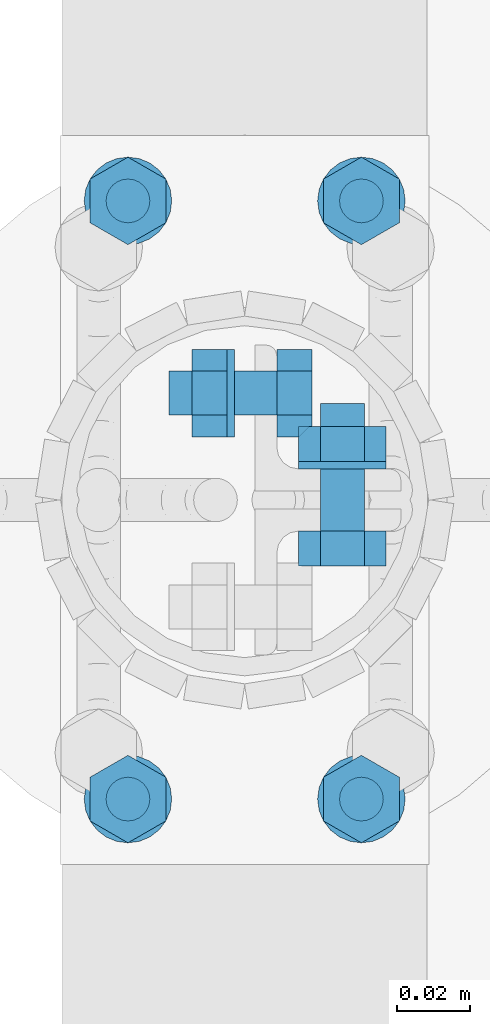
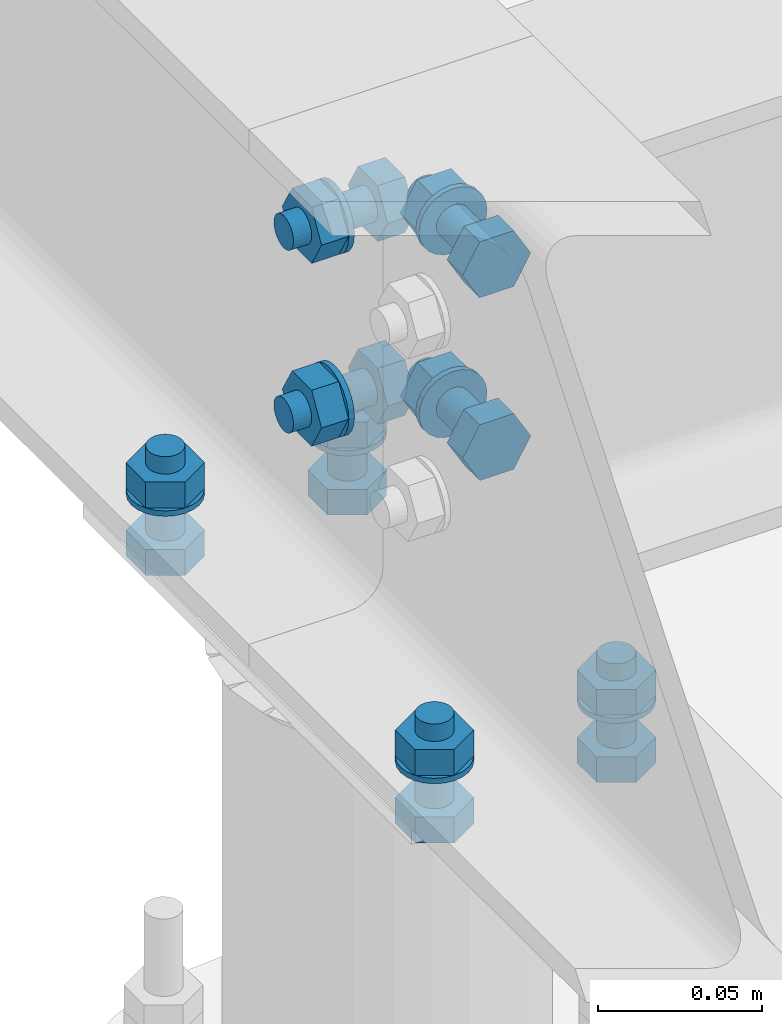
# One storey, part 76 of 84: 40 mechanical fasteners.
"""IFC4 building model written with IfcOpenShell, lengths in metres."""

from ifc_helpers import new_model, si_unit, frame, origin_with_axes, place, context, project, spatial, polyline, outline, extrude, type_object, element, save


model = new_model("IFC4")

# Units and contexts
model_context = context("Model", 3, precision=1e-05, world=origin_with_axes())
ifc_project = project(units=[si_unit("LENGTHUNIT", "METRE"), si_unit("AREAUNIT", "SQUARE_METRE"), si_unit("VOLUMEUNIT", "CUBIC_METRE"), si_unit("MASSUNIT", "GRAM", prefix="KILO"), si_unit("TIMEUNIT", "SECOND"), si_unit("PLANEANGLEUNIT", "RADIAN"), si_unit("SOLIDANGLEUNIT", "STERADIAN"), si_unit("THERMODYNAMICTEMPERATUREUNIT", "DEGREE_CELSIUS")], contexts=[model_context])

# Site, building, storey
placement_1 = place(None, origin_with_axes())
site = spatial("IfcSite", under=ifc_project, at=placement_1, Name="Italia", CompositionType="ELEMENT")
building = spatial("IfcBuilding", under=site, at=placement_1, Name="Tettoia", CompositionType="ELEMENT")
storey_placement = place(None, frame((0.0, 0.0, 4.199999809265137), z_axis=(0.0, 0.0, 1.0), x_axis=(1.0, 0.0, 0.0)))
storey = spatial("IfcBuildingStorey", under=building, at=storey_placement, Name="Storey 1", CompositionType="ELEMENT", Elevation=4.199999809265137)

# Mechanical fasteners
mechanical_fastener_type_1 = type_object("IfcMechanicalFastenerType", Name="Collegamento 0114_-014", PredefinedType="BOLT")
placement_2 = place(placement_1, origin_with_axes())
mechanical_fastener_1_placement = place(placement_2, origin_with_axes())
element("IfcMechanicalFastener", 1, at=mechanical_fastener_1_placement, inside=storey, type_object=mechanical_fastener_type_1, Name="Collegamento 0114_-014", NominalDiameter=0.0119991, context=model_context, shape_type="SweptSolid", body=[
    extrude(outline(polyline([(0.0, 0.0), (0.0119991, 0.0), (0.0179996, -0.0103923), (0.0119991, -0.0207846), (0.0, -0.0207846), (-0.00600052, -0.0103923), (0.0, 0.0)])), frame((0.142392, 19.896, 4.195), z_axis=(0.0, 0.0, -1.0), x_axis=(0.0, 1.0, 0.0)), (0.0, 0.0, 1.0), 0.00959969),
])
mechanical_fastener_type_2 = type_object("IfcMechanicalFastenerType", Name="Collegamento 0114_-014", PredefinedType="BOLT")
mechanical_fastener_2_placement = place(placement_2, origin_with_axes())
element("IfcMechanicalFastener", 2, at=mechanical_fastener_2_placement, inside=storey, type_object=mechanical_fastener_type_2, Name="Collegamento 0114_-014", NominalDiameter=0.012, context=model_context, shape_type="SweptSolid", body=[
    extrude(outline(polyline([(0.0, 0.0), (-0.000204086, -0.00155291), (-0.000804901, -0.00300001), (-0.00175858, -0.00424264), (-0.00300026, -0.00519615), (-0.00444794, -0.00579555), (-0.00600052, -0.006), (-0.0075531, -0.00579555), (-0.00900078, -0.00519615), (-0.0102425, -0.00424264), (-0.0111961, -0.00300001), (-0.011797, -0.00155291), (-0.012001, 0.0), (-0.011797, 0.00155291), (-0.0111961, 0.00300001), (-0.0102425, 0.00424264), (-0.00900078, 0.00519615), (-0.0075531, 0.00579555), (-0.00600052, 0.006), (-0.00444794, 0.00579555), (-0.00300026, 0.00519615), (-0.00175858, 0.00424264), (-0.000804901, 0.00299999), (-0.000204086, 0.00155291), (0.0, 0.0)])), frame((0.132, 19.908, 4.2265), z_axis=(0.0, 0.0, -1.0), x_axis=(0.0, 1.0, 0.0)), (0.0, 0.0, 1.0), 0.0315003),
])
mechanical_fastener_type_3 = type_object("IfcMechanicalFastenerType", Name="Collegamento 0114_-014", PredefinedType="BOLT")
mechanical_fastener_3_placement = place(placement_2, origin_with_axes())
element("IfcMechanicalFastener", 3, at=mechanical_fastener_3_placement, inside=storey, type_object=mechanical_fastener_type_3, Name="Collegamento 0114_-014", NominalDiameter=0.0119991, context=model_context, shape_type="SweptSolid", body=[
    extrude(outline(polyline([(0.0, 0.0), (0.0119991, 0.0), (0.0179996, -0.0103923), (0.0119991, -0.0207846), (0.0, -0.0207846), (-0.00600052, -0.0103923), (0.0, 0.0)])), frame((0.142392, 19.896, 4.2201), z_axis=(0.0, 0.0, -1.0), x_axis=(0.0, 1.0, 0.0)), (0.0, 0.0, 1.0), 0.00960016),
])
mechanical_fastener_type_4 = type_object("IfcMechanicalFastenerType", Name="Collegamento 0114_-014", PredefinedType="BOLT")
mechanical_fastener_4_placement = place(placement_2, origin_with_axes())
element("IfcMechanicalFastener", 4, at=mechanical_fastener_4_placement, inside=storey, type_object=mechanical_fastener_type_4, Name="Collegamento 0114_-014", NominalDiameter=0.024, context=model_context, shape_type="SweptSolid", body=[
    extrude(outline(polyline([(0.0, 0.0), (-0.000408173, -0.00310583), (-0.00160599, -0.006), (-0.00351334, -0.00848528), (-0.00599861, -0.0103923), (-0.00889397, -0.0115911), (-0.0119991, -0.012), (-0.0151043, -0.0115911), (-0.0179996, -0.0103923), (-0.0204849, -0.00848528), (-0.0223923, -0.006), (-0.0235901, -0.00310583), (-0.0239983, 0.0), (-0.0235901, 0.00310583), (-0.0223923, 0.006), (-0.0204849, 0.00848529), (-0.0179996, 0.0103923), (-0.0151043, 0.0115911), (-0.0119991, 0.012), (-0.00889397, 0.0115911), (-0.00599861, 0.0103923), (-0.00351334, 0.00848527), (-0.00160599, 0.006), (-0.000408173, 0.00310582), (0.0, 0.0)])), frame((0.132, 19.914, 4.2105), z_axis=(0.0, 0.0, -1.0), x_axis=(0.0, 1.0, 0.0)), (0.0, 0.0, 1.0), 0.00199986),
])
mechanical_fastener_type_5 = type_object("IfcMechanicalFastenerType", Name="Collegamento 0114_-014", PredefinedType="BOLT")
mechanical_fastener_5_placement = place(placement_2, origin_with_axes())
element("IfcMechanicalFastener", 5, at=mechanical_fastener_5_placement, inside=storey, type_object=mechanical_fastener_type_5, Name="Collegamento 0114_-014", NominalDiameter=0.0119991, context=model_context, shape_type="SweptSolid", body=[
    extrude(outline(polyline([(0.0, 0.0), (0.0119991, 0.0), (0.0179996, -0.0103923), (0.0119991, -0.0207846), (0.0, -0.0207846), (-0.00600052, -0.0103923), (0.0, 0.0)])), frame((0.142392, 19.732, 4.195), z_axis=(0.0, 0.0, -1.0), x_axis=(0.0, 1.0, 0.0)), (0.0, 0.0, 1.0), 0.00959969),
])
mechanical_fastener_type_6 = type_object("IfcMechanicalFastenerType", Name="Collegamento 0114_-014", PredefinedType="BOLT")
mechanical_fastener_6_placement = place(placement_2, origin_with_axes())
element("IfcMechanicalFastener", 6, at=mechanical_fastener_6_placement, inside=storey, type_object=mechanical_fastener_type_6, Name="Collegamento 0114_-014", NominalDiameter=0.012, context=model_context, shape_type="SweptSolid", body=[
    extrude(outline(polyline([(0.0, 0.0), (-0.000204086, -0.00155291), (-0.000804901, -0.00300001), (-0.00175858, -0.00424264), (-0.00300026, -0.00519615), (-0.00444794, -0.00579555), (-0.00600052, -0.006), (-0.0075531, -0.00579555), (-0.00900078, -0.00519615), (-0.0102425, -0.00424264), (-0.0111961, -0.00300001), (-0.011797, -0.00155291), (-0.012001, 0.0), (-0.011797, 0.00155291), (-0.0111961, 0.00300001), (-0.0102425, 0.00424264), (-0.00900078, 0.00519615), (-0.0075531, 0.00579555), (-0.00600052, 0.006), (-0.00444794, 0.00579555), (-0.00300026, 0.00519615), (-0.00175858, 0.00424264), (-0.000804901, 0.00299999), (-0.000204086, 0.00155291), (0.0, 0.0)])), frame((0.132, 19.744, 4.2265), z_axis=(0.0, 0.0, -1.0), x_axis=(0.0, 1.0, 0.0)), (0.0, 0.0, 1.0), 0.0315003),
])
mechanical_fastener_type_7 = type_object("IfcMechanicalFastenerType", Name="Collegamento 0114_-014", PredefinedType="BOLT")
mechanical_fastener_7_placement = place(placement_2, origin_with_axes())
element("IfcMechanicalFastener", 7, at=mechanical_fastener_7_placement, inside=storey, type_object=mechanical_fastener_type_7, Name="Collegamento 0114_-014", NominalDiameter=0.0119991, context=model_context, shape_type="SweptSolid", body=[
    extrude(outline(polyline([(0.0, 0.0), (0.0119991, 0.0), (0.0179996, -0.0103923), (0.0119991, -0.0207846), (0.0, -0.0207846), (-0.00600052, -0.0103923), (0.0, 0.0)])), frame((0.142392, 19.732, 4.2201), z_axis=(0.0, 0.0, -1.0), x_axis=(0.0, 1.0, 0.0)), (0.0, 0.0, 1.0), 0.00960016),
])
mechanical_fastener_type_8 = type_object("IfcMechanicalFastenerType", Name="Collegamento 0114_-014", PredefinedType="BOLT")
mechanical_fastener_8_placement = place(placement_2, origin_with_axes())
element("IfcMechanicalFastener", 8, at=mechanical_fastener_8_placement, inside=storey, type_object=mechanical_fastener_type_8, Name="Collegamento 0114_-014", NominalDiameter=0.024, context=model_context, shape_type="SweptSolid", body=[
    extrude(outline(polyline([(0.0, 0.0), (-0.000408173, -0.00310583), (-0.00160599, -0.006), (-0.00351334, -0.00848528), (-0.00599861, -0.0103923), (-0.00889397, -0.0115911), (-0.0119991, -0.012), (-0.0151043, -0.0115911), (-0.0179996, -0.0103923), (-0.0204849, -0.00848528), (-0.0223923, -0.006), (-0.0235901, -0.00310583), (-0.0239983, 0.0), (-0.0235901, 0.00310583), (-0.0223923, 0.006), (-0.0204849, 0.00848529), (-0.0179996, 0.0103923), (-0.0151043, 0.0115911), (-0.0119991, 0.012), (-0.00889397, 0.0115911), (-0.00599861, 0.0103923), (-0.00351334, 0.00848527), (-0.00160599, 0.006), (-0.000408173, 0.00310582), (0.0, 0.0)])), frame((0.132, 19.75, 4.2105), z_axis=(0.0, 0.0, -1.0), x_axis=(0.0, 1.0, 0.0)), (0.0, 0.0, 1.0), 0.00199986),
])
mechanical_fastener_type_9 = type_object("IfcMechanicalFastenerType", Name="Collegamento 0114_-014", PredefinedType="BOLT")
mechanical_fastener_9_placement = place(placement_2, origin_with_axes())
element("IfcMechanicalFastener", 9, at=mechanical_fastener_9_placement, inside=storey, type_object=mechanical_fastener_type_9, Name="Collegamento 0114_-014", NominalDiameter=0.0119991, context=model_context, shape_type="SweptSolid", body=[
    extrude(outline(polyline([(0.0, 0.0), (0.0119991, 0.0), (0.0179996, -0.0103923), (0.0119991, -0.0207846), (0.0, -0.0207846), (-0.00600052, -0.0103923), (0.0, 0.0)])), frame((0.0783923, 19.896, 4.195), z_axis=(0.0, 0.0, -1.0), x_axis=(0.0, 1.0, 0.0)), (0.0, 0.0, 1.0), 0.00959969),
])
mechanical_fastener_type_10 = type_object("IfcMechanicalFastenerType", Name="Collegamento 0114_-014", PredefinedType="BOLT")
mechanical_fastener_10_placement = place(placement_2, origin_with_axes())
element("IfcMechanicalFastener", 10, at=mechanical_fastener_10_placement, inside=storey, type_object=mechanical_fastener_type_10, Name="Collegamento 0114_-014", NominalDiameter=0.012, context=model_context, shape_type="SweptSolid", body=[
    extrude(outline(polyline([(0.0, 0.0), (-0.000204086, -0.00155292), (-0.000804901, -0.003), (-0.00175858, -0.00424264), (-0.00300026, -0.00519615), (-0.00444794, -0.00579555), (-0.00600052, -0.006), (-0.0075531, -0.00579555), (-0.00900078, -0.00519615), (-0.0102425, -0.00424264), (-0.0111961, -0.003), (-0.011797, -0.00155292), (-0.012001, 0.0), (-0.011797, 0.00155292), (-0.0111961, 0.003), (-0.0102425, 0.00424264), (-0.00900078, 0.00519615), (-0.0075531, 0.00579555), (-0.00600052, 0.006), (-0.00444794, 0.00579555), (-0.00300026, 0.00519615), (-0.00175858, 0.00424264), (-0.000804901, 0.003), (-0.000204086, 0.00155291), (0.0, 0.0)])), frame((0.068, 19.908, 4.2265), z_axis=(0.0, 0.0, -1.0), x_axis=(0.0, 1.0, 0.0)), (0.0, 0.0, 1.0), 0.0315003),
])
mechanical_fastener_type_11 = type_object("IfcMechanicalFastenerType", Name="Collegamento 0114_-014", PredefinedType="BOLT")
mechanical_fastener_11_placement = place(placement_2, origin_with_axes())
element("IfcMechanicalFastener", 11, at=mechanical_fastener_11_placement, inside=storey, type_object=mechanical_fastener_type_11, Name="Collegamento 0114_-014", NominalDiameter=0.0119991, context=model_context, shape_type="SweptSolid", body=[
    extrude(outline(polyline([(0.0, 0.0), (0.0119991, 0.0), (0.0179996, -0.0103923), (0.0119991, -0.0207846), (0.0, -0.0207846), (-0.00600052, -0.0103923), (0.0, 0.0)])), frame((0.0783923, 19.896, 4.2201), z_axis=(0.0, 0.0, -1.0), x_axis=(0.0, 1.0, 0.0)), (0.0, 0.0, 1.0), 0.00960016),
])
mechanical_fastener_type_12 = type_object("IfcMechanicalFastenerType", Name="Collegamento 0114_-014", PredefinedType="BOLT")
mechanical_fastener_12_placement = place(placement_2, origin_with_axes())
element("IfcMechanicalFastener", 12, at=mechanical_fastener_12_placement, inside=storey, type_object=mechanical_fastener_type_12, Name="Collegamento 0114_-014", NominalDiameter=0.024, context=model_context, shape_type="SweptSolid", body=[
    extrude(outline(polyline([(0.0, 0.0), (-0.000408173, -0.00310583), (-0.00160599, -0.006), (-0.00351334, -0.00848528), (-0.00599861, -0.0103923), (-0.00889397, -0.0115911), (-0.0119991, -0.012), (-0.0151043, -0.0115911), (-0.0179996, -0.0103923), (-0.0204849, -0.00848528), (-0.0223923, -0.006), (-0.0235901, -0.00310583), (-0.0239983, 0.0), (-0.0235901, 0.00310583), (-0.0223923, 0.006), (-0.0204849, 0.00848528), (-0.0179996, 0.0103923), (-0.0151043, 0.0115911), (-0.0119991, 0.012), (-0.00889397, 0.0115911), (-0.00599861, 0.0103923), (-0.00351334, 0.00848528), (-0.00160599, 0.006), (-0.000408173, 0.00310583), (0.0, 0.0)])), frame((0.068, 19.914, 4.2105), z_axis=(0.0, 0.0, -1.0), x_axis=(0.0, 1.0, 0.0)), (0.0, 0.0, 1.0), 0.00199986),
])
mechanical_fastener_type_13 = type_object("IfcMechanicalFastenerType", Name="Collegamento 0114_-014", PredefinedType="BOLT")
mechanical_fastener_13_placement = place(placement_2, origin_with_axes())
element("IfcMechanicalFastener", 13, at=mechanical_fastener_13_placement, inside=storey, type_object=mechanical_fastener_type_13, Name="Collegamento 0114_-014", NominalDiameter=0.0119991, context=model_context, shape_type="SweptSolid", body=[
    extrude(outline(polyline([(0.0, 0.0), (0.0119991, 0.0), (0.0179996, -0.0103923), (0.0119991, -0.0207846), (0.0, -0.0207846), (-0.00600052, -0.0103923), (0.0, 0.0)])), frame((0.0783923, 19.732, 4.195), z_axis=(0.0, 0.0, -1.0), x_axis=(0.0, 1.0, 0.0)), (0.0, 0.0, 1.0), 0.00959969),
])
mechanical_fastener_type_14 = type_object("IfcMechanicalFastenerType", Name="Collegamento 0114_-014", PredefinedType="BOLT")
mechanical_fastener_14_placement = place(placement_2, origin_with_axes())
element("IfcMechanicalFastener", 14, at=mechanical_fastener_14_placement, inside=storey, type_object=mechanical_fastener_type_14, Name="Collegamento 0114_-014", NominalDiameter=0.012, context=model_context, shape_type="SweptSolid", body=[
    extrude(outline(polyline([(0.0, 0.0), (-0.000204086, -0.00155292), (-0.000804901, -0.003), (-0.00175858, -0.00424264), (-0.00300026, -0.00519615), (-0.00444794, -0.00579555), (-0.00600052, -0.006), (-0.0075531, -0.00579555), (-0.00900078, -0.00519615), (-0.0102425, -0.00424264), (-0.0111961, -0.003), (-0.011797, -0.00155292), (-0.012001, 0.0), (-0.011797, 0.00155292), (-0.0111961, 0.003), (-0.0102425, 0.00424264), (-0.00900078, 0.00519615), (-0.0075531, 0.00579555), (-0.00600052, 0.006), (-0.00444794, 0.00579555), (-0.00300026, 0.00519615), (-0.00175858, 0.00424264), (-0.000804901, 0.003), (-0.000204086, 0.00155291), (0.0, 0.0)])), frame((0.068, 19.744, 4.2265), z_axis=(0.0, 0.0, -1.0), x_axis=(0.0, 1.0, 0.0)), (0.0, 0.0, 1.0), 0.0315003),
])
mechanical_fastener_type_15 = type_object("IfcMechanicalFastenerType", Name="Collegamento 0114_-014", PredefinedType="BOLT")
mechanical_fastener_15_placement = place(placement_2, origin_with_axes())
element("IfcMechanicalFastener", 15, at=mechanical_fastener_15_placement, inside=storey, type_object=mechanical_fastener_type_15, Name="Collegamento 0114_-014", NominalDiameter=0.0119991, context=model_context, shape_type="SweptSolid", body=[
    extrude(outline(polyline([(0.0, 0.0), (0.0119991, 0.0), (0.0179996, -0.0103923), (0.0119991, -0.0207846), (0.0, -0.0207846), (-0.00600052, -0.0103923), (0.0, 0.0)])), frame((0.0783923, 19.732, 4.2201), z_axis=(0.0, 0.0, -1.0), x_axis=(0.0, 1.0, 0.0)), (0.0, 0.0, 1.0), 0.00960016),
])
mechanical_fastener_type_16 = type_object("IfcMechanicalFastenerType", Name="Collegamento 0114_-014", PredefinedType="BOLT")
mechanical_fastener_16_placement = place(placement_2, origin_with_axes())
element("IfcMechanicalFastener", 16, at=mechanical_fastener_16_placement, inside=storey, type_object=mechanical_fastener_type_16, Name="Collegamento 0114_-014", NominalDiameter=0.024, context=model_context, shape_type="SweptSolid", body=[
    extrude(outline(polyline([(0.0, 0.0), (-0.000408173, -0.00310583), (-0.00160599, -0.006), (-0.00351334, -0.00848528), (-0.00599861, -0.0103923), (-0.00889397, -0.0115911), (-0.0119991, -0.012), (-0.0151043, -0.0115911), (-0.0179996, -0.0103923), (-0.0204849, -0.00848528), (-0.0223923, -0.006), (-0.0235901, -0.00310583), (-0.0239983, 0.0), (-0.0235901, 0.00310583), (-0.0223923, 0.006), (-0.0204849, 0.00848528), (-0.0179996, 0.0103923), (-0.0151043, 0.0115911), (-0.0119991, 0.012), (-0.00889397, 0.0115911), (-0.00599861, 0.0103923), (-0.00351334, 0.00848528), (-0.00160599, 0.006), (-0.000408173, 0.00310583), (0.0, 0.0)])), frame((0.068, 19.75, 4.2105), z_axis=(0.0, 0.0, -1.0), x_axis=(0.0, 1.0, 0.0)), (0.0, 0.0, 1.0), 0.00199986),
])
mechanical_fastener_type_17 = type_object("IfcMechanicalFastenerType", Name="Collegamento 0114_0115", PredefinedType="BOLT")
mechanical_fastener_17_placement = place(placement_2, origin_with_axes())
element("IfcMechanicalFastener", 17, at=mechanical_fastener_17_placement, inside=storey, type_object=mechanical_fastener_type_17, Name="Collegamento 0114_0115", NominalDiameter=0.0119999, context=model_context, shape_type="SweptSolid", body=[
    extrude(outline(polyline([(0.0, 0.0), (-0.012, 0.0), (-0.018, 0.0103922), (-0.012, 0.0207844), (0.0, 0.0207844), (0.006, 0.0103922), (0.0, 0.0)])), frame((0.1328, 19.8115, 4.25561), z_axis=(0.0, -1.0, 0.0), x_axis=(1.0, 0.0, 0.0)), (0.0, 0.0, 1.0), 0.00960159),
])
mechanical_fastener_type_18 = type_object("IfcMechanicalFastenerType", Name="Collegamento 0114_0115", PredefinedType="BOLT")
mechanical_fastener_18_placement = place(placement_2, origin_with_axes())
element("IfcMechanicalFastener", 18, at=mechanical_fastener_18_placement, inside=storey, type_object=mechanical_fastener_type_18, Name="Collegamento 0114_0115", NominalDiameter=0.012, context=model_context, shape_type="SweptSolid", body=[
    extrude(outline(polyline([(0.0, 0.0), (-0.000204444, -0.00155306), (-0.000803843, -0.00299978), (-0.00175735, -0.00424242), (-0.00299999, -0.00519609), (-0.00444709, -0.00579548), (-0.006, -0.00600004), (-0.00755291, -0.00579548), (-0.009, -0.00519609), (-0.0102426, -0.00424242), (-0.0111962, -0.00299978), (-0.0117956, -0.00155306), (-0.012, 0.0), (-0.0117956, 0.00155306), (-0.0111962, 0.00299978), (-0.0102426, 0.00424242), (-0.009, 0.00519609), (-0.00755291, 0.00579548), (-0.006, 0.00600004), (-0.00444709, 0.00579548), (-0.00299999, 0.00519609), (-0.00175735, 0.00424242), (-0.000803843, 0.00299978), (-0.000204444, 0.00155306), (0.0, 0.0)])), frame((0.1328, 19.8465, 4.266), z_axis=(0.0, -1.0, 0.0), x_axis=(1.0, 0.0, 0.0)), (0.0, 0.0, 1.0), 0.0349998),
])
mechanical_fastener_type_19 = type_object("IfcMechanicalFastenerType", Name="Collegamento 0114_0115", PredefinedType="BOLT")
mechanical_fastener_19_placement = place(placement_2, origin_with_axes())
element("IfcMechanicalFastener", 19, at=mechanical_fastener_19_placement, inside=storey, type_object=mechanical_fastener_type_19, Name="Collegamento 0114_0115", NominalDiameter=0.0119999, context=model_context, shape_type="SweptSolid", body=[
    extrude(outline(polyline([(0.0, 0.0), (-0.012, 0.0), (-0.018, 0.0103922), (-0.012, 0.0207844), (0.0, 0.0207844), (0.006, 0.0103922), (0.0, 0.0)])), frame((0.1328, 19.8401, 4.25561), z_axis=(0.0, -1.0, 0.0), x_axis=(1.0, 0.0, 0.0)), (0.0, 0.0, 1.0), 0.00959969),
])
mechanical_fastener_type_20 = type_object("IfcMechanicalFastenerType", Name="Collegamento 0114_0115", PredefinedType="BOLT")
mechanical_fastener_20_placement = place(placement_2, origin_with_axes())
element("IfcMechanicalFastener", 20, at=mechanical_fastener_20_placement, inside=storey, type_object=mechanical_fastener_type_20, Name="Collegamento 0114_0115", NominalDiameter=0.024, context=model_context, shape_type="SweptSolid", body=[
    extrude(outline(polyline([(0.0, 0.0), (-0.000408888, -0.00310564), (-0.00160769, -0.00600004), (-0.00351471, -0.00848532), (-0.006, -0.0103922), (-0.00889416, -0.011591), (-0.012, -0.0120001), (-0.0151058, -0.011591), (-0.018, -0.0103922), (-0.0204853, -0.00848532), (-0.0223923, -0.00600004), (-0.0235911, -0.00310564), (-0.024, 0.0), (-0.0235911, 0.00310564), (-0.0223923, 0.00600004), (-0.0204853, 0.00848532), (-0.018, 0.0103922), (-0.0151058, 0.011591), (-0.012, 0.0120001), (-0.00889416, 0.011591), (-0.006, 0.0103922), (-0.00351471, 0.00848532), (-0.00160769, 0.00600004), (-0.000408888, 0.00310564), (0.0, 0.0)])), frame((0.1388, 19.8305, 4.266), z_axis=(0.0, -1.0, 0.0), x_axis=(1.0, 0.0, 0.0)), (0.0, 0.0, 1.0), 0.00200081),
])
mechanical_fastener_type_21 = type_object("IfcMechanicalFastenerType", Name="Collegamento 0114_0115", PredefinedType="BOLT")
mechanical_fastener_21_placement = place(placement_2, origin_with_axes())
element("IfcMechanicalFastener", 21, at=mechanical_fastener_21_placement, inside=storey, type_object=mechanical_fastener_type_21, Name="Collegamento 0114_0115", NominalDiameter=0.0119999, context=model_context, shape_type="SweptSolid", body=[
    extrude(outline(polyline([(0.0, 0.0), (-0.012, 0.0), (-0.018, 0.0103922), (-0.012, 0.0207844), (0.0, 0.0207844), (0.006, 0.0103922), (0.0, 0.0)])), frame((0.1328, 19.8115, 4.32361), z_axis=(0.0, -1.0, 0.0), x_axis=(1.0, 0.0, 0.0)), (0.0, 0.0, 1.0), 0.00960159),
])
mechanical_fastener_type_22 = type_object("IfcMechanicalFastenerType", Name="Collegamento 0114_0115", PredefinedType="BOLT")
mechanical_fastener_22_placement = place(placement_2, origin_with_axes())
element("IfcMechanicalFastener", 22, at=mechanical_fastener_22_placement, inside=storey, type_object=mechanical_fastener_type_22, Name="Collegamento 0114_0115", NominalDiameter=0.012, context=model_context, shape_type="SweptSolid", body=[
    extrude(outline(polyline([(0.0, 0.0), (-0.000204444, -0.00155306), (-0.000803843, -0.00299978), (-0.00175735, -0.00424242), (-0.00299999, -0.00519609), (-0.00444709, -0.00579548), (-0.006, -0.00600004), (-0.00755291, -0.00579548), (-0.009, -0.00519609), (-0.0102426, -0.00424242), (-0.0111962, -0.00299978), (-0.0117956, -0.00155306), (-0.012, 0.0), (-0.0117956, 0.00155306), (-0.0111962, 0.00299978), (-0.0102426, 0.00424242), (-0.009, 0.00519609), (-0.00755291, 0.00579548), (-0.006, 0.00600004), (-0.00444709, 0.00579548), (-0.00299999, 0.00519609), (-0.00175735, 0.00424242), (-0.000803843, 0.00299978), (-0.000204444, 0.00155306), (0.0, 0.0)])), frame((0.1328, 19.8465, 4.334), z_axis=(0.0, -1.0, 0.0), x_axis=(1.0, 0.0, 0.0)), (0.0, 0.0, 1.0), 0.0349998),
])
mechanical_fastener_type_23 = type_object("IfcMechanicalFastenerType", Name="Collegamento 0114_0115", PredefinedType="BOLT")
mechanical_fastener_23_placement = place(placement_2, origin_with_axes())
element("IfcMechanicalFastener", 23, at=mechanical_fastener_23_placement, inside=storey, type_object=mechanical_fastener_type_23, Name="Collegamento 0114_0115", NominalDiameter=0.0119999, context=model_context, shape_type="SweptSolid", body=[
    extrude(outline(polyline([(0.0, 0.0), (-0.012, 0.0), (-0.018, 0.0103922), (-0.012, 0.0207844), (0.0, 0.0207844), (0.006, 0.0103922), (0.0, 0.0)])), frame((0.1328, 19.8401, 4.32361), z_axis=(0.0, -1.0, 0.0), x_axis=(1.0, 0.0, 0.0)), (0.0, 0.0, 1.0), 0.00959969),
])
mechanical_fastener_type_24 = type_object("IfcMechanicalFastenerType", Name="Collegamento 0114_0115", PredefinedType="BOLT")
mechanical_fastener_24_placement = place(placement_2, origin_with_axes())
element("IfcMechanicalFastener", 24, at=mechanical_fastener_24_placement, inside=storey, type_object=mechanical_fastener_type_24, Name="Collegamento 0114_0115", NominalDiameter=0.024, context=model_context, shape_type="SweptSolid", body=[
    extrude(outline(polyline([(0.0, 0.0), (-0.000408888, -0.00310564), (-0.00160769, -0.00600004), (-0.00351471, -0.00848532), (-0.006, -0.0103922), (-0.00889416, -0.011591), (-0.012, -0.0120001), (-0.0151058, -0.011591), (-0.018, -0.0103922), (-0.0204853, -0.00848532), (-0.0223923, -0.00600004), (-0.0235911, -0.00310564), (-0.024, 0.0), (-0.0235911, 0.00310564), (-0.0223923, 0.00600004), (-0.0204853, 0.00848532), (-0.018, 0.0103922), (-0.0151058, 0.011591), (-0.012, 0.0120001), (-0.00889416, 0.011591), (-0.006, 0.0103922), (-0.00351471, 0.00848532), (-0.00160769, 0.00600004), (-0.000408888, 0.00310564), (0.0, 0.0)])), frame((0.1388, 19.8305, 4.334), z_axis=(0.0, -1.0, 0.0), x_axis=(1.0, 0.0, 0.0)), (0.0, 0.0, 1.0), 0.00200081),
])
mechanical_fastener_type_25 = type_object("IfcMechanicalFastenerType", Name="Collegamento 0114_0115", PredefinedType="BOLT")
mechanical_fastener_25_placement = place(placement_2, origin_with_axes())
element("IfcMechanicalFastener", 25, at=mechanical_fastener_25_placement, inside=storey, type_object=mechanical_fastener_type_25, Name="Collegamento 0114_0115", NominalDiameter=0.0119999, context=model_context, shape_type="SweptSolid", body=[
    extrude(outline(polyline([(0.0, 0.0), (-0.012, 0.0), (-0.018, 0.0103922), (-0.012, 0.0207844), (0.0, 0.0207844), (0.006, 0.0103922), (0.0, 0.0)])), frame((0.1328, 19.8115, 4.25561), z_axis=(0.0, -1.0, 0.0), x_axis=(1.0, 0.0, 0.0)), (0.0, 0.0, 1.0), 0.00960159),
])
mechanical_fastener_type_26 = type_object("IfcMechanicalFastenerType", Name="Collegamento 0114_0115", PredefinedType="BOLT")
mechanical_fastener_26_placement = place(placement_2, origin_with_axes())
element("IfcMechanicalFastener", 26, at=mechanical_fastener_26_placement, inside=storey, type_object=mechanical_fastener_type_26, Name="Collegamento 0114_0115", NominalDiameter=0.012, context=model_context, shape_type="SweptSolid", body=[
    extrude(outline(polyline([(0.0, 0.0), (-0.000204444, -0.00155306), (-0.000803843, -0.00299978), (-0.00175735, -0.00424242), (-0.00299999, -0.00519609), (-0.00444709, -0.00579548), (-0.006, -0.00600004), (-0.00755291, -0.00579548), (-0.009, -0.00519609), (-0.0102426, -0.00424242), (-0.0111962, -0.00299978), (-0.0117956, -0.00155306), (-0.012, 0.0), (-0.0117956, 0.00155306), (-0.0111962, 0.00299978), (-0.0102426, 0.00424242), (-0.009, 0.00519609), (-0.00755291, 0.00579548), (-0.006, 0.00600004), (-0.00444709, 0.00579548), (-0.00299999, 0.00519609), (-0.00175735, 0.00424242), (-0.000803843, 0.00299978), (-0.000204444, 0.00155306), (0.0, 0.0)])), frame((0.1328, 19.8465, 4.266), z_axis=(0.0, -1.0, 0.0), x_axis=(1.0, 0.0, 0.0)), (0.0, 0.0, 1.0), 0.0349998),
])
mechanical_fastener_type_27 = type_object("IfcMechanicalFastenerType", Name="Collegamento 0114_0115", PredefinedType="BOLT")
mechanical_fastener_27_placement = place(placement_2, origin_with_axes())
element("IfcMechanicalFastener", 27, at=mechanical_fastener_27_placement, inside=storey, type_object=mechanical_fastener_type_27, Name="Collegamento 0114_0115", NominalDiameter=0.0119999, context=model_context, shape_type="SweptSolid", body=[
    extrude(outline(polyline([(0.0, 0.0), (-0.012, 0.0), (-0.018, 0.0103922), (-0.012, 0.0207844), (0.0, 0.0207844), (0.006, 0.0103922), (0.0, 0.0)])), frame((0.1328, 19.8401, 4.25561), z_axis=(0.0, -1.0, 0.0), x_axis=(1.0, 0.0, 0.0)), (0.0, 0.0, 1.0), 0.00959969),
])
mechanical_fastener_type_28 = type_object("IfcMechanicalFastenerType", Name="Collegamento 0114_0115", PredefinedType="BOLT")
mechanical_fastener_28_placement = place(placement_2, origin_with_axes())
element("IfcMechanicalFastener", 28, at=mechanical_fastener_28_placement, inside=storey, type_object=mechanical_fastener_type_28, Name="Collegamento 0114_0115", NominalDiameter=0.024, context=model_context, shape_type="SweptSolid", body=[
    extrude(outline(polyline([(0.0, 0.0), (-0.000408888, -0.00310564), (-0.00160769, -0.00600004), (-0.00351471, -0.00848532), (-0.006, -0.0103922), (-0.00889416, -0.011591), (-0.012, -0.0120001), (-0.0151058, -0.011591), (-0.018, -0.0103922), (-0.0204853, -0.00848532), (-0.0223923, -0.00600004), (-0.0235911, -0.00310564), (-0.024, 0.0), (-0.0235911, 0.00310564), (-0.0223923, 0.00600004), (-0.0204853, 0.00848532), (-0.018, 0.0103922), (-0.0151058, 0.011591), (-0.012, 0.0120001), (-0.00889416, 0.011591), (-0.006, 0.0103922), (-0.00351471, 0.00848532), (-0.00160769, 0.00600004), (-0.000408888, 0.00310564), (0.0, 0.0)])), frame((0.1388, 19.8305, 4.266), z_axis=(0.0, -1.0, 0.0), x_axis=(1.0, 0.0, 0.0)), (0.0, 0.0, 1.0), 0.00200081),
])
mechanical_fastener_type_29 = type_object("IfcMechanicalFastenerType", Name="Collegamento 0114_0115", PredefinedType="BOLT")
mechanical_fastener_29_placement = place(placement_2, origin_with_axes())
element("IfcMechanicalFastener", 29, at=mechanical_fastener_29_placement, inside=storey, type_object=mechanical_fastener_type_29, Name="Collegamento 0114_0115", NominalDiameter=0.0119999, context=model_context, shape_type="SweptSolid", body=[
    extrude(outline(polyline([(0.0, 0.0), (-0.012, 0.0), (-0.018, 0.0103922), (-0.012, 0.0207844), (0.0, 0.0207844), (0.006, 0.0103922), (0.0, 0.0)])), frame((0.1328, 19.8115, 4.32361), z_axis=(0.0, -1.0, 0.0), x_axis=(1.0, 0.0, 0.0)), (0.0, 0.0, 1.0), 0.00960159),
])
mechanical_fastener_type_30 = type_object("IfcMechanicalFastenerType", Name="Collegamento 0114_0115", PredefinedType="BOLT")
mechanical_fastener_30_placement = place(placement_2, origin_with_axes())
element("IfcMechanicalFastener", 30, at=mechanical_fastener_30_placement, inside=storey, type_object=mechanical_fastener_type_30, Name="Collegamento 0114_0115", NominalDiameter=0.012, context=model_context, shape_type="SweptSolid", body=[
    extrude(outline(polyline([(0.0, 0.0), (-0.000204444, -0.00155306), (-0.000803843, -0.00299978), (-0.00175735, -0.00424242), (-0.00299999, -0.00519609), (-0.00444709, -0.00579548), (-0.006, -0.00600004), (-0.00755291, -0.00579548), (-0.009, -0.00519609), (-0.0102426, -0.00424242), (-0.0111962, -0.00299978), (-0.0117956, -0.00155306), (-0.012, 0.0), (-0.0117956, 0.00155306), (-0.0111962, 0.00299978), (-0.0102426, 0.00424242), (-0.009, 0.00519609), (-0.00755291, 0.00579548), (-0.006, 0.00600004), (-0.00444709, 0.00579548), (-0.00299999, 0.00519609), (-0.00175735, 0.00424242), (-0.000803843, 0.00299978), (-0.000204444, 0.00155306), (0.0, 0.0)])), frame((0.1328, 19.8465, 4.334), z_axis=(0.0, -1.0, 0.0), x_axis=(1.0, 0.0, 0.0)), (0.0, 0.0, 1.0), 0.0349998),
])
mechanical_fastener_type_31 = type_object("IfcMechanicalFastenerType", Name="Collegamento 0114_0115", PredefinedType="BOLT")
mechanical_fastener_31_placement = place(placement_2, origin_with_axes())
element("IfcMechanicalFastener", 31, at=mechanical_fastener_31_placement, inside=storey, type_object=mechanical_fastener_type_31, Name="Collegamento 0114_0115", NominalDiameter=0.0119999, context=model_context, shape_type="SweptSolid", body=[
    extrude(outline(polyline([(0.0, 0.0), (-0.012, 0.0), (-0.018, 0.0103922), (-0.012, 0.0207844), (0.0, 0.0207844), (0.006, 0.0103922), (0.0, 0.0)])), frame((0.1328, 19.8401, 4.32361), z_axis=(0.0, -1.0, 0.0), x_axis=(1.0, 0.0, 0.0)), (0.0, 0.0, 1.0), 0.00959969),
])
mechanical_fastener_type_32 = type_object("IfcMechanicalFastenerType", Name="Collegamento 0114_0115", PredefinedType="BOLT")
mechanical_fastener_32_placement = place(placement_2, origin_with_axes())
element("IfcMechanicalFastener", 32, at=mechanical_fastener_32_placement, inside=storey, type_object=mechanical_fastener_type_32, Name="Collegamento 0114_0115", NominalDiameter=0.024, context=model_context, shape_type="SweptSolid", body=[
    extrude(outline(polyline([(0.0, 0.0), (-0.000408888, -0.00310564), (-0.00160769, -0.00600004), (-0.00351471, -0.00848532), (-0.006, -0.0103922), (-0.00889416, -0.011591), (-0.012, -0.0120001), (-0.0151058, -0.011591), (-0.018, -0.0103922), (-0.0204853, -0.00848532), (-0.0223923, -0.00600004), (-0.0235911, -0.00310564), (-0.024, 0.0), (-0.0235911, 0.00310564), (-0.0223923, 0.00600004), (-0.0204853, 0.00848532), (-0.018, 0.0103922), (-0.0151058, 0.011591), (-0.012, 0.0120001), (-0.00889416, 0.011591), (-0.006, 0.0103922), (-0.00351471, 0.00848532), (-0.00160769, 0.00600004), (-0.000408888, 0.00310564), (0.0, 0.0)])), frame((0.1388, 19.8305, 4.334), z_axis=(0.0, -1.0, 0.0), x_axis=(1.0, 0.0, 0.0)), (0.0, 0.0, 1.0), 0.00200081),
])
mechanical_fastener_type_33 = type_object("IfcMechanicalFastenerType", Name="Collegamento 0114_0115", PredefinedType="BOLT")
mechanical_fastener_33_placement = place(placement_2, origin_with_axes())
element("IfcMechanicalFastener", 33, at=mechanical_fastener_33_placement, inside=storey, type_object=mechanical_fastener_type_33, Name="Collegamento 0114_0115", NominalDiameter=0.0119991, context=model_context, shape_type="SweptSolid", body=[
    extrude(outline(polyline([(0.0, 0.0), (-0.0119991, 0.0), (-0.0179996, 0.0103922), (-0.0119991, 0.0207844), (0.0, 0.0207844), (0.00600052, 0.0103922), (0.0, 0.0)])), frame((0.1088, 19.8553, 4.25561), z_axis=(1.0, 0.0, 0.0), x_axis=(0.0, 1.0, 0.0)), (0.0, 0.0, 1.0), 0.0096),
])
mechanical_fastener_type_34 = type_object("IfcMechanicalFastenerType", Name="Collegamento 0114_0115", PredefinedType="BOLT")
mechanical_fastener_34_placement = place(placement_2, origin_with_axes())
element("IfcMechanicalFastener", 34, at=mechanical_fastener_34_placement, inside=storey, type_object=mechanical_fastener_type_34, Name="Collegamento 0114_0115", NominalDiameter=0.012, context=model_context, shape_type="SweptSolid", body=[
    extrude(outline(polyline([(0.0, 0.0), (-0.000204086, -0.00155306), (-0.000804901, -0.00299978), (-0.00175858, -0.00424242), (-0.00300026, -0.00519609), (-0.00444794, -0.00579548), (-0.00600052, -0.00600004), (-0.0075531, -0.00579548), (-0.00900078, -0.00519609), (-0.0102425, -0.00424242), (-0.0111961, -0.00299978), (-0.011797, -0.00155306), (-0.012001, 0.0), (-0.011797, 0.00155306), (-0.0111961, 0.00299978), (-0.0102425, 0.00424242), (-0.00900078, 0.00519609), (-0.0075531, 0.00579548), (-0.00600052, 0.00600004), (-0.00444794, 0.00579548), (-0.00300026, 0.00519609), (-0.00175858, 0.00424242), (-0.000804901, 0.00299978), (-0.000204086, 0.00155306), (0.0, 0.0)])), frame((0.0791999, 19.8553, 4.266), z_axis=(1.0, 0.0, 0.0), x_axis=(0.0, 1.0, 0.0)), (0.0, 0.0, 1.0), 0.0296),
])
mechanical_fastener_type_35 = type_object("IfcMechanicalFastenerType", Name="Collegamento 0114_0115", PredefinedType="BOLT")
mechanical_fastener_35_placement = place(placement_2, origin_with_axes())
element("IfcMechanicalFastener", 35, at=mechanical_fastener_35_placement, inside=storey, type_object=mechanical_fastener_type_35, Name="Collegamento 0114_0115", NominalDiameter=0.0119991, context=model_context, shape_type="SweptSolid", body=[
    extrude(outline(polyline([(0.0, 0.0), (-0.0119991, 0.0), (-0.0179996, 0.0103922), (-0.0119991, 0.0207844), (0.0, 0.0207844), (0.00600052, 0.0103922), (0.0, 0.0)])), frame((0.0855999, 19.8553, 4.25561), z_axis=(1.0, 0.0, 0.0), x_axis=(0.0, 1.0, 0.0)), (0.0, 0.0, 1.0), 0.0096),
])
mechanical_fastener_type_36 = type_object("IfcMechanicalFastenerType", Name="Collegamento 0114_0115", PredefinedType="BOLT")
mechanical_fastener_36_placement = place(placement_2, origin_with_axes())
element("IfcMechanicalFastener", 36, at=mechanical_fastener_36_placement, inside=storey, type_object=mechanical_fastener_type_36, Name="Collegamento 0114_0115", NominalDiameter=0.024, context=model_context, shape_type="SweptSolid", body=[
    extrude(outline(polyline([(0.0, 0.0), (-0.000408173, -0.00310564), (-0.00160599, -0.00600004), (-0.00351334, -0.00848532), (-0.00599861, -0.0103922), (-0.00889397, -0.011591), (-0.0119991, -0.0120001), (-0.0151043, -0.011591), (-0.0179996, -0.0103922), (-0.0204849, -0.00848532), (-0.0223923, -0.00600004), (-0.0235901, -0.00310564), (-0.0239983, 0.0), (-0.0235901, 0.00310564), (-0.0223923, 0.00600004), (-0.0204849, 0.00848532), (-0.0179996, 0.0103922), (-0.0151043, 0.011591), (-0.0119991, 0.0120001), (-0.00889397, 0.011591), (-0.00599861, 0.0103922), (-0.00351334, 0.00848532), (-0.00160599, 0.00600004), (-0.000408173, 0.00310564), (0.0, 0.0)])), frame((0.0951999, 19.8613, 4.266), z_axis=(1.0, 0.0, 0.0), x_axis=(0.0, 1.0, 0.0)), (0.0, 0.0, 1.0), 0.002),
])
mechanical_fastener_type_37 = type_object("IfcMechanicalFastenerType", Name="Collegamento 0114_0115", PredefinedType="BOLT")
mechanical_fastener_37_placement = place(placement_2, origin_with_axes())
element("IfcMechanicalFastener", 37, at=mechanical_fastener_37_placement, inside=storey, type_object=mechanical_fastener_type_37, Name="Collegamento 0114_0115", NominalDiameter=0.0119991, context=model_context, shape_type="SweptSolid", body=[
    extrude(outline(polyline([(0.0, 0.0), (-0.0119991, 0.0), (-0.0179996, 0.0103922), (-0.0119991, 0.0207844), (0.0, 0.0207844), (0.00600052, 0.0103922), (0.0, 0.0)])), frame((0.1088, 19.8553, 4.32361), z_axis=(1.0, 0.0, 0.0), x_axis=(0.0, 1.0, 0.0)), (0.0, 0.0, 1.0), 0.0096),
])
mechanical_fastener_type_38 = type_object("IfcMechanicalFastenerType", Name="Collegamento 0114_0115", PredefinedType="BOLT")
mechanical_fastener_38_placement = place(placement_2, origin_with_axes())
element("IfcMechanicalFastener", 38, at=mechanical_fastener_38_placement, inside=storey, type_object=mechanical_fastener_type_38, Name="Collegamento 0114_0115", NominalDiameter=0.012, context=model_context, shape_type="SweptSolid", body=[
    extrude(outline(polyline([(0.0, 0.0), (-0.000204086, -0.00155306), (-0.000804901, -0.00299978), (-0.00175858, -0.00424242), (-0.00300026, -0.00519609), (-0.00444794, -0.00579548), (-0.00600052, -0.00600004), (-0.0075531, -0.00579548), (-0.00900078, -0.00519609), (-0.0102425, -0.00424242), (-0.0111961, -0.00299978), (-0.011797, -0.00155306), (-0.012001, 0.0), (-0.011797, 0.00155306), (-0.0111961, 0.00299978), (-0.0102425, 0.00424242), (-0.00900078, 0.00519609), (-0.0075531, 0.00579548), (-0.00600052, 0.00600004), (-0.00444794, 0.00579548), (-0.00300026, 0.00519609), (-0.00175858, 0.00424242), (-0.000804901, 0.00299978), (-0.000204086, 0.00155306), (0.0, 0.0)])), frame((0.0791999, 19.8553, 4.334), z_axis=(1.0, 0.0, 0.0), x_axis=(0.0, 1.0, 0.0)), (0.0, 0.0, 1.0), 0.0296),
])
mechanical_fastener_type_39 = type_object("IfcMechanicalFastenerType", Name="Collegamento 0114_0115", PredefinedType="BOLT")
mechanical_fastener_39_placement = place(placement_2, origin_with_axes())
element("IfcMechanicalFastener", 39, at=mechanical_fastener_39_placement, inside=storey, type_object=mechanical_fastener_type_39, Name="Collegamento 0114_0115", NominalDiameter=0.0119991, context=model_context, shape_type="SweptSolid", body=[
    extrude(outline(polyline([(0.0, 0.0), (-0.0119991, 0.0), (-0.0179996, 0.0103922), (-0.0119991, 0.0207844), (0.0, 0.0207844), (0.00600052, 0.0103922), (0.0, 0.0)])), frame((0.0855999, 19.8553, 4.32361), z_axis=(1.0, 0.0, 0.0), x_axis=(0.0, 1.0, 0.0)), (0.0, 0.0, 1.0), 0.0096),
])
mechanical_fastener_type_40 = type_object("IfcMechanicalFastenerType", Name="Collegamento 0114_0115", PredefinedType="BOLT")
mechanical_fastener_40_placement = place(placement_2, origin_with_axes())
element("IfcMechanicalFastener", 40, at=mechanical_fastener_40_placement, inside=storey, type_object=mechanical_fastener_type_40, Name="Collegamento 0114_0115", NominalDiameter=0.024, context=model_context, shape_type="SweptSolid", body=[
    extrude(outline(polyline([(0.0, 0.0), (-0.000408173, -0.00310564), (-0.00160599, -0.00600004), (-0.00351334, -0.00848532), (-0.00599861, -0.0103922), (-0.00889397, -0.011591), (-0.0119991, -0.0120001), (-0.0151043, -0.011591), (-0.0179996, -0.0103922), (-0.0204849, -0.00848532), (-0.0223923, -0.00600004), (-0.0235901, -0.00310564), (-0.0239983, 0.0), (-0.0235901, 0.00310564), (-0.0223923, 0.00600004), (-0.0204849, 0.00848532), (-0.0179996, 0.0103922), (-0.0151043, 0.011591), (-0.0119991, 0.0120001), (-0.00889397, 0.011591), (-0.00599861, 0.0103922), (-0.00351334, 0.00848532), (-0.00160599, 0.00600004), (-0.000408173, 0.00310564), (0.0, 0.0)])), frame((0.0951999, 19.8613, 4.334), z_axis=(1.0, 0.0, 0.0), x_axis=(0.0, 1.0, 0.0)), (0.0, 0.0, 1.0), 0.002),
])

save(model, "model.ifc")
